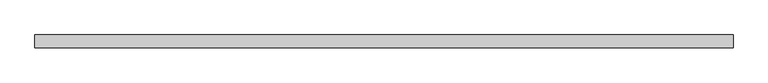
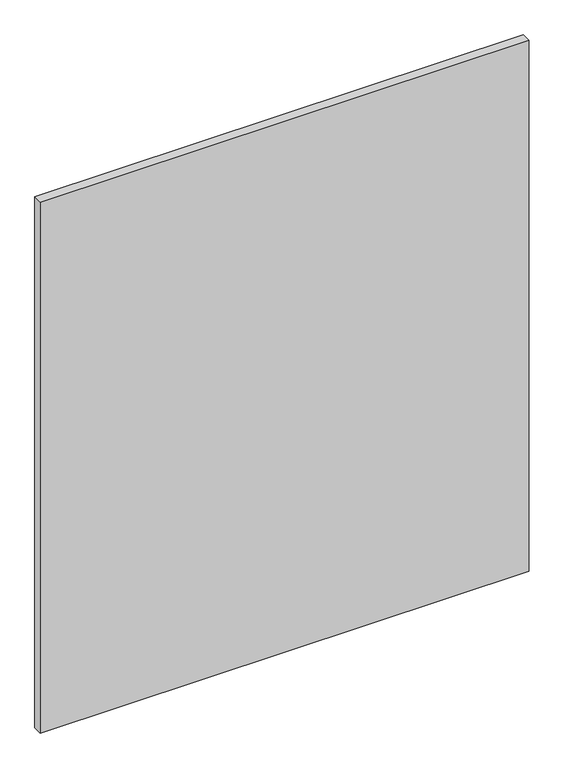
"""IFC4 building model written with IfcOpenShell, lengths in millimetres: plate geometry, Системная панель : ADSK_Cтеклопакет_25."""

import ifcopenshell
import ifcopenshell.guid

model = None  # the IFC model being written
_history = None  # IfcOwnerHistory: only IFC2X3 demands one
_inside = {}  # id of a spatial element -> (the spatial element, [elements in it])
_under = {}  # id of a project, library or spatial element -> (it, [spatial elements below it])
_declared = {}  # id of a project -> (the project, [libraries it declares])
_typed = {}  # id of a type object -> (the type object, [elements of that type])
_made_of = {}  # id of a material, layer set ... -> (it, [elements and type objects made of it])


def new_model(schema):
    """Start an empty IFC model of exactly this schema.

    Asked for "IFC4X3", IfcOpenShell would pick the latest addendum, in which some entities
    have other attributes; the version numbers below select the first issue.
    IFC2X3 requires an IfcOwnerHistory on every rooted entity: one is made here for all.
    """
    global model, _history
    if schema == "IFC4X3":
        model = ifcopenshell.file(schema_version=(4, 3, 0, 0))
    else:
        model = ifcopenshell.file(schema=schema)
    _inside.clear()
    _under.clear()
    _declared.clear()
    _typed.clear()
    _made_of.clear()
    _history = None
    if model.schema == "IFC2X3":
        org = make("IfcOrganization", Name="unknown")
        user = make(
            "IfcPersonAndOrganization",
            ThePerson=make("IfcPerson", FamilyName="unknown"),
            TheOrganization=org,
        )
        app = make(
            "IfcApplication",
            ApplicationDeveloper=org,
            Version="unknown",
            ApplicationFullName="unknown",
            ApplicationIdentifier="unknown",
        )
        _history = make(
            "IfcOwnerHistory",
            OwningUser=user,
            OwningApplication=app,
            ChangeAction="ADDED",
            CreationDate=0,
        )
    return model


def make(cls, **values):
    """One entity of the class cls with the attributes given. An attribute that is None is left unset."""
    return model.create_entity(
        cls, **{name: value for name, value in values.items() if value is not None}
    )


def rooted(cls, **values):
    """An entity with a GlobalId (a new one), such as an element, a storey or a relation."""
    return make(cls, GlobalId=ifcopenshell.guid.new(), OwnerHistory=_history, **values)


def si_unit(unit_type, name, prefix=None):
    """IfcSIUnit, for example si_unit("LENGTHUNIT", "METRE", prefix="MILLI")."""
    return make("IfcSIUnit", UnitType=unit_type, Prefix=prefix, Name=name)


def assignment(units):
    """IfcUnitAssignment: the units of a project."""
    return None if units is None else make("IfcUnitAssignment", Units=units)


def point(xyz):
    """IfcCartesianPoint."""
    return None if xyz is None else make("IfcCartesianPoint", Coordinates=xyz)


def direction(xyz):
    """IfcDirection."""
    return None if xyz is None else make("IfcDirection", DirectionRatios=xyz)


def frame(location, z_axis=None, x_axis=None):
    """IfcAxis2Placement3D, a coordinate frame: its origin and axes. An axis left out is left unset."""
    return make(
        "IfcAxis2Placement3D",
        Location=point(location),
        Axis=direction(z_axis),
        RefDirection=direction(x_axis),
    )


def origin():
    """The frame at (0, 0, 0) with its axes left unset."""
    return frame((0.0, 0.0, 0.0))


def origin_with_axes():
    """The frame at (0, 0, 0) with the z axis (0, 0, 1) and the x axis (1, 0, 0) written out."""
    return frame((0.0, 0.0, 0.0), z_axis=(0.0, 0.0, 1.0), x_axis=(1.0, 0.0, 0.0))


def place(relative_to, where):
    """IfcLocalPlacement: puts the frame where relative to a parent placement (None: the world)."""
    return make(
        "IfcLocalPlacement", PlacementRelTo=relative_to, RelativePlacement=where
    )


def context(
    kind, dimensions, precision=None, world=None, true_north=None, identifier=None
):
    """IfcGeometricRepresentationContext, for example the 3D "Model" context."""
    return make(
        "IfcGeometricRepresentationContext",
        ContextIdentifier=identifier,
        ContextType=kind,
        CoordinateSpaceDimension=dimensions,
        Precision=precision,
        WorldCoordinateSystem=world,
        TrueNorth=true_north,
    )


def project(units=None, contexts=None):
    """IfcProject with its units and contexts."""
    return rooted(
        "IfcProject",
        Name="project",
        RepresentationContexts=contexts,
        UnitsInContext=assignment(units),
    )


def spatial(cls, under=None, at=None, **own):
    """A site, building, storey or space (cls), placed at a placement, below another one or the project."""
    s = rooted(cls, ObjectPlacement=at, **own)
    if under is not None:
        _under.setdefault(under.id(), (under, []))[1].append(s)
    return s


def polyline(points):
    """IfcPolyline through the points."""
    return make("IfcPolyline", Points=[point(p) for p in points])


def outline(outer, holes=None, kind="AREA"):
    """IfcArbitraryClosedProfileDef: a profile drawn as a closed curve; with holes, ...WithVoids."""
    if holes is None:
        return make("IfcArbitraryClosedProfileDef", ProfileType=kind, OuterCurve=outer)
    return make(
        "IfcArbitraryProfileDefWithVoids",
        ProfileType=kind,
        OuterCurve=outer,
        InnerCurves=holes,
    )


def extrude(swept, where, along, depth):
    """IfcExtrudedAreaSolid: the profile swept, set in the frame where, extruded along a direction by depth."""
    return make(
        "IfcExtrudedAreaSolid",
        SweptArea=swept,
        Position=where,
        ExtrudedDirection=direction(along),
        Depth=depth,
    )


def shape(context_of_items, identifier, shape_type, items):
    """IfcShapeRepresentation: the items that make up one representation, for example the "Body"."""
    return make(
        "IfcShapeRepresentation",
        ContextOfItems=context_of_items,
        RepresentationIdentifier=identifier,
        RepresentationType=shape_type,
        Items=items,
    )


def source(mapping_origin, context_of_items, identifier, shape_type, items):
    """IfcRepresentationMap: a shape defined once, which mapped items show again and again."""
    return make(
        "IfcRepresentationMap",
        MappingOrigin=mapping_origin,
        MappedRepresentation=shape(context_of_items, identifier, shape_type, items),
    )


def transform(
    local_origin,
    x_axis=None,
    y_axis=None,
    z_axis=None,
    scale=None,
    scale2=None,
    scale3=None,
    uniform=True,
):
    """IfcCartesianTransformationOperator3D, or its non-uniform kind. x_axis, y_axis, z_axis: its Axis1, 2, 3."""
    if uniform:
        return make(
            "IfcCartesianTransformationOperator3D",
            Axis1=direction(x_axis),
            Axis2=direction(y_axis),
            LocalOrigin=point(local_origin),
            Scale=scale,
            Axis3=direction(z_axis),
        )
    return make(
        "IfcCartesianTransformationOperator3DnonUniform",
        Axis1=direction(x_axis),
        Axis2=direction(y_axis),
        LocalOrigin=point(local_origin),
        Scale=scale,
        Axis3=direction(z_axis),
        Scale2=scale2,
        Scale3=scale3,
    )


def mapped(mapping_source, mapping_target):
    """IfcMappedItem: shows the shape of a source again, moved by a transform."""
    return make(
        "IfcMappedItem", MappingSource=mapping_source, MappingTarget=mapping_target
    )


def made_of(thing, what):
    """Note that an element or type object is made of a material, layer set ...; save() writes the relation."""
    if what is not None:
        _made_of.setdefault(what.id(), (what, []))[1].append(thing)
    return thing


def element(
    cls,
    number,
    at=None,
    inside=None,
    cuts=None,
    type_object=None,
    material=None,
    context=None,
    identifier="Body",
    shape_type=None,
    held_by="IfcProductDefinitionShape",
    body=None,
    shapes=None,
    **own,
):
    """One element of the class cls, such as IfcWall. Its Tag is "e" and its number.

    at: its placement. inside: the storey or other place that contains it. cuts: it is an
    opening in that element (IfcRelVoidsElement). A single representation is given by context,
    identifier, shape_type and body (its items); several are given by shapes. held_by: the class
    of the entity that holds the representations. save() writes the other relations.
    """
    e = rooted(cls, Tag="e%d" % number, ObjectPlacement=at, **own)
    if body is not None:
        shapes = [shape(context, identifier, shape_type, body)]
    if shapes is not None:
        e.Representation = make(held_by, Representations=shapes)
    if inside is not None:
        _inside.setdefault(inside.id(), (inside, []))[1].append(e)
    if cuts is not None:
        rooted(
            "IfcRelVoidsElement", RelatingBuildingElement=cuts, RelatedOpeningElement=e
        )
    if type_object is not None:
        _typed.setdefault(type_object.id(), (type_object, []))[1].append(e)
    return made_of(e, material)


def aggregate(whole, parts):
    """IfcRelAggregates: a whole, such as a stair, and the parts it consists of."""
    return rooted("IfcRelAggregates", RelatingObject=whole, RelatedObjects=parts)


def save(model, path):
    """Write the relations noted so far, then the file.

    IfcRelAggregates (storeys below a building ...), IfcRelContainedInSpatialStructure (elements
    in a storey), IfcRelDefinesByType, IfcRelAssociatesMaterial and IfcRelDeclares: one each for
    every whole, place, type object, material and project.
    """
    for whole, parts in _under.values():
        aggregate(whole, parts)
    for where, things in _inside.values():
        rooted(
            "IfcRelContainedInSpatialStructure",
            RelatedElements=things,
            RelatingStructure=where,
        )
    for kind, things in _typed.values():
        rooted("IfcRelDefinesByType", RelatedObjects=things, RelatingType=kind)
    for what, things in _made_of.values():
        rooted("IfcRelAssociatesMaterial", RelatedObjects=things, RelatingMaterial=what)
    for by, libraries in _declared.values():
        rooted("IfcRelDeclares", RelatingContext=by, RelatedDefinitions=libraries)
    model.write(path)


def plate_39042a1e(model_context):
    return source(origin(), model_context, "Body", "SweptSolid", [
        extrude(outline(polyline([(675.0, -12.5), (-675.0, -12.5), (-675.0, 12.5), (675.0, 12.5), (675.0, -12.5)])), origin_with_axes(), (0.0, 0.0, 1.0), 1550.0),
    ])


if __name__ == "__main__":
    model = new_model("IFC4")
    model_context = context("Model", 3, world=origin())
    ifc_project = project(units=[si_unit("LENGTHUNIT", "METRE", prefix="MILLI")], contexts=[model_context])
    site = spatial("IfcSite", under=ifc_project)
    building = spatial("IfcBuilding", under=site)
    placement = place(None, origin())
    plate_shape = plate_39042a1e(model_context)
    element("IfcPlate", 1, ObjectType="Системная панель : ADSK_Cтеклопакет_25", at=placement, inside=building, context=model_context, shape_type="MappedRepresentation", body=[
        mapped(plate_shape, transform((0.0, 0.0, 0.0), x_axis=(1.0, 0.0, 0.0), y_axis=(0.0, 1.0, 0.0), z_axis=(0.0, 0.0, 1.0))),
    ])
    save(model, "model.ifc")
